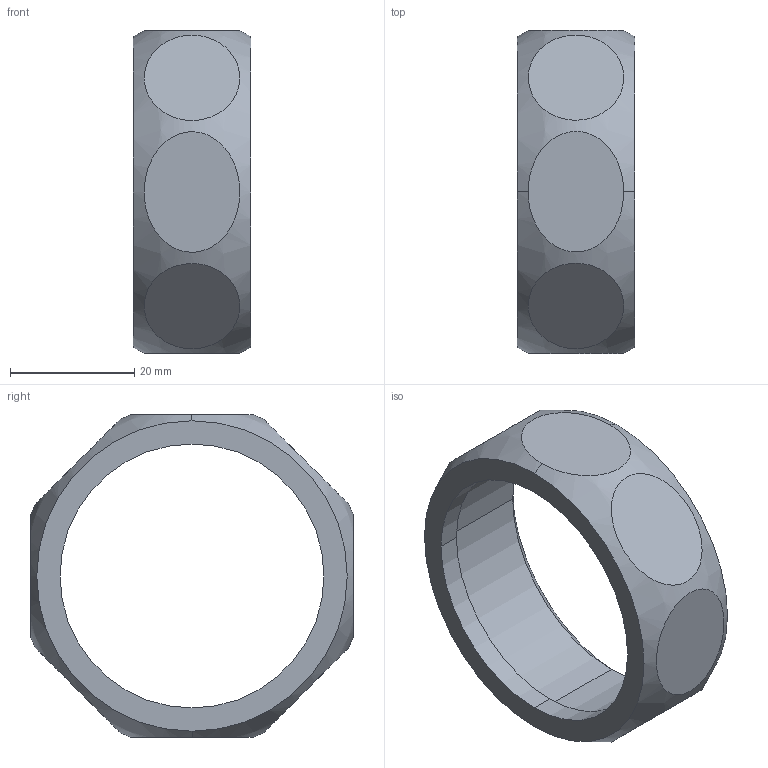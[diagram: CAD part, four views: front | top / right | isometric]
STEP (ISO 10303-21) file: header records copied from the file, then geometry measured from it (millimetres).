
FILE_DESCRIPTION((''),'2;1');
FILE_NAME('\\Lg50001\Groups\SANHA Legnica\Engineering\Public\Pajchrowski\projekty\8000 models\4374\4374 step\14374_112.stp','2008-05-09T14:35:07',('pajchrowski'),(''),'Autodesk Inventor 2008','Autodesk Inventor 2008','');
FILE_SCHEMA(('AUTOMOTIVE_DESIGN { 1 0 10303 214 1 1 1 1 }'));
Length unit declared in the file: millimetre
Products named in the file (1): 4374_112
Bounding box: 19 x 52 x 52 mm (x, y, z)
Volume: 11838.3 mm3; surface area: 6919.6 mm2
Topology: 1 solids, 1 shells, 25 faces, 52 edges, 36 vertices
Faces by surface type: plane 11, cylinder 8, cone 4, bspline 2
Entity records: 1234 total; most frequent: CARTESIAN_POINT 674, DIRECTION 112, ORIENTED_EDGE 104, EDGE_CURVE 52, AXIS2_PLACEMENT_3D 50, VERTEX_POINT 36, EDGE_LOOP 34, CIRCLE 26
